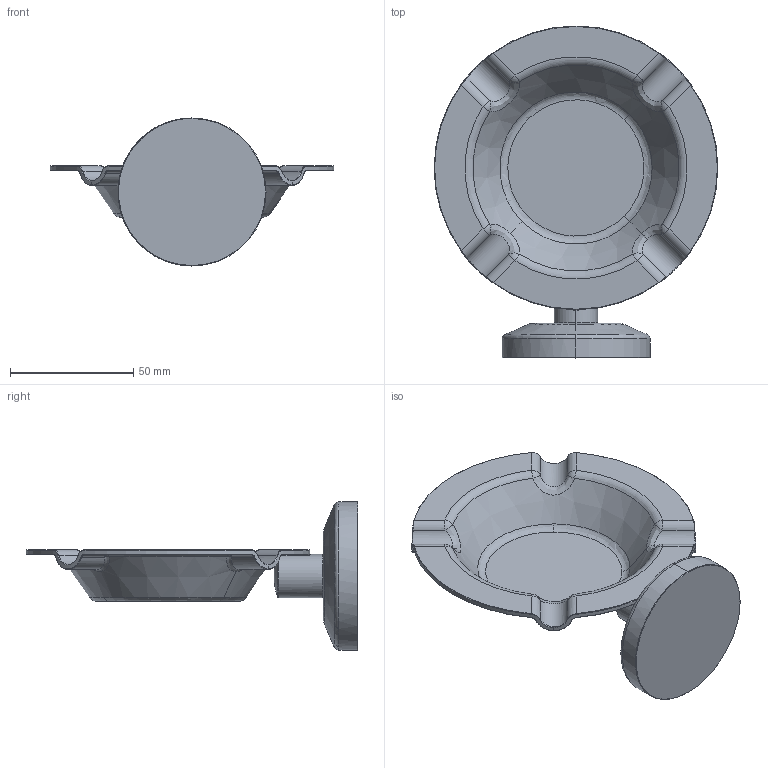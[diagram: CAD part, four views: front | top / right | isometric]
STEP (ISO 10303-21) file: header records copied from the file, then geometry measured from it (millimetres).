
FILE_DESCRIPTION(('THIS FILE CONTAINS SOME STEP INSTANCES'),'1');
FILE_NAME('sta_018.stp','2015-11-30T 9:27:52',('UNDEFINED'),('UNDEFINED'),'T-FLEX CAD STEP converter','T-FLEX CAD','');
FILE_SCHEMA(('CONFIG_CONTROL_DESIGN'));
Length unit declared in the file: metre
Products named in the file (1): 3D 鐨飹懤艜_8
Bounding box: 115 x 134.5 x 60 mm (x, y, z)
Volume: 64972.9 mm3; surface area: 34414 mm2
Topology: 1 solids, 1 shells, 144 faces, 335 edges, 176 vertices
Faces by surface type: bspline 45, cylinder 30, cone 19, sphere 18, torus 17, plane 15
Entity records: 17032 total; most frequent: CARTESIAN_POINT 14413, ORIENTED_EDGE 634, DIRECTION 406, EDGE_CURVE 317, AXIS2_PLACEMENT_3D 176, VERTEX_POINT 176, EDGE_LOOP 145, ADVANCED_FACE 144
